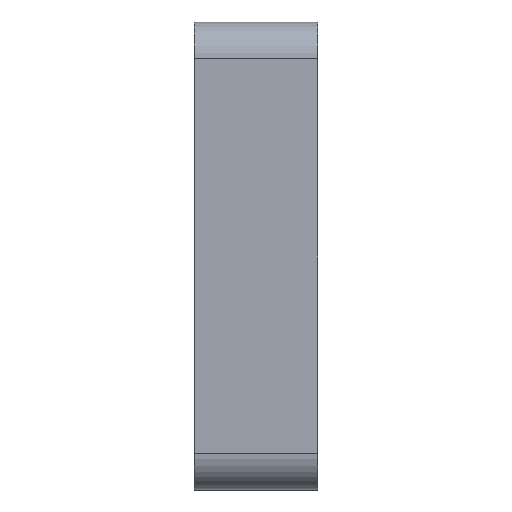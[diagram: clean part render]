
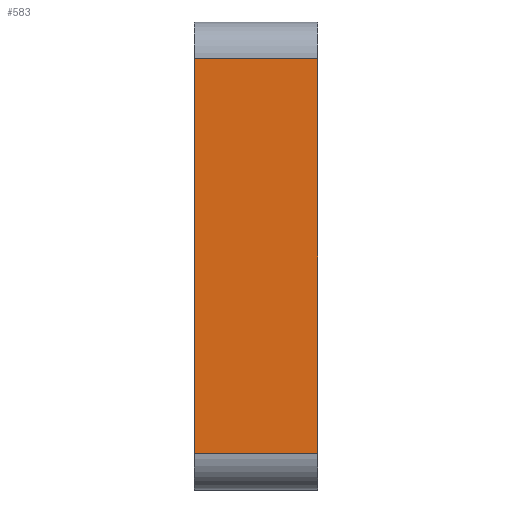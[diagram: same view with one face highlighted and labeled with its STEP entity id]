
A CAD part, left-side view. The second image highlights one B-rep face of the part: STEP entity #583.
In plain terms, the highlighted planar face has unit normal (-1, 0, 0).
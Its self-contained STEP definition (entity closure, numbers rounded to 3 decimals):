
#17 = EDGE_CURVE ( 'NONE', #248, #560, #804, .T. ) ;
#23 = CARTESIAN_POINT ( 'NONE',  ( 0., 10., -3. ) ) ;
#80 = CARTESIAN_POINT ( 'NONE',  ( 0., 10., -3. ) ) ;
#86 = AXIS2_PLACEMENT_3D ( 'NONE', #23, #215, #685 ) ;
#103 = LINE ( 'NONE', #110, #386 ) ;
#110 = CARTESIAN_POINT ( 'NONE',  ( 0., 0., -3. ) ) ;
#115 = VERTEX_POINT ( 'NONE', #225 ) ;
#119 = FACE_OUTER_BOUND ( 'NONE', #347, .T. ) ;
#156 = EDGE_CURVE ( 'NONE', #115, #290, #103, .T. ) ;
#179 = ORIENTED_EDGE ( 'NONE', *, *, #156, .T. ) ;
#191 = CARTESIAN_POINT ( 'NONE',  ( 0., 10., -35. ) ) ;
#215 = DIRECTION ( 'NONE',  ( 1., 0., 0. ) ) ;
#216 = CARTESIAN_POINT ( 'NONE',  ( 0., 10., -3. ) ) ;
#221 = DIRECTION ( 'NONE',  ( 0., 0., 1. ) ) ;
#225 = CARTESIAN_POINT ( 'NONE',  ( 0., 0., -35. ) ) ;
#227 = ORIENTED_EDGE ( 'NONE', *, *, #623, .T. ) ;
#248 = VERTEX_POINT ( 'NONE', #191 ) ;
#272 = LINE ( 'NONE', #80, #780 ) ;
#290 = VERTEX_POINT ( 'NONE', #662 ) ;
#347 = EDGE_LOOP ( 'NONE', ( #179, #508, #744, #227 ) ) ;
#386 = VECTOR ( 'NONE', #573, 1000. ) ;
#413 = CARTESIAN_POINT ( 'NONE',  ( 0., 10., -35. ) ) ;
#482 = CARTESIAN_POINT ( 'NONE',  ( 0., 10., -3. ) ) ;
#508 = ORIENTED_EDGE ( 'NONE', *, *, #701, .F. ) ;
#558 = VECTOR ( 'NONE', #628, 1000. ) ;
#560 = VERTEX_POINT ( 'NONE', #216 ) ;
#573 = DIRECTION ( 'NONE',  ( 0., 0., 1. ) ) ;
#583 = ADVANCED_FACE ( 'NONE', ( #119 ), #829, .F. ) ;
#623 = EDGE_CURVE ( 'NONE', #248, #115, #677, .T. ) ;
#628 = DIRECTION ( 'NONE',  ( 0., -1., 0. ) ) ;
#662 = CARTESIAN_POINT ( 'NONE',  ( 0., 0., -3. ) ) ;
#677 = LINE ( 'NONE', #413, #558 ) ;
#685 = DIRECTION ( 'NONE',  ( 0., 0., -1. ) ) ;
#697 = DIRECTION ( 'NONE',  ( 0., -1., 0. ) ) ;
#701 = EDGE_CURVE ( 'NONE', #560, #290, #272, .T. ) ;
#744 = ORIENTED_EDGE ( 'NONE', *, *, #17, .F. ) ;
#777 = VECTOR ( 'NONE', #221, 1000. ) ;
#780 = VECTOR ( 'NONE', #697, 1000. ) ;
#804 = LINE ( 'NONE', #482, #777 ) ;
#829 = PLANE ( 'NONE',  #86 ) ;
